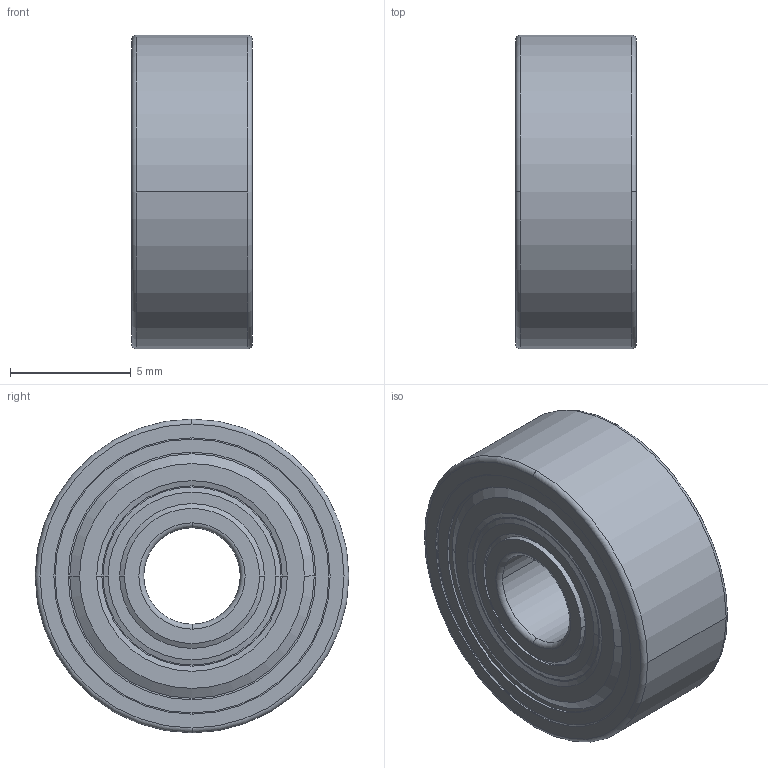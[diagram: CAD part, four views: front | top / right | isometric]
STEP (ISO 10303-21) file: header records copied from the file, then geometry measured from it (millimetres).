
FILE_DESCRIPTION(('FreeCAD Model'),'2;1');
FILE_NAME('Open CASCADE Shape Model','2021-04-30T14:11:58',(''),(''), 'Open CASCADE STEP processor 7.5','FreeCAD','Unknown');
FILE_SCHEMA(('AUTOMOTIVE_DESIGN { 1 0 10303 214 1 1 1 1 }'));
Length unit declared in the file: millimetre
Products named in the file (6): snr_624zz_0_006; snr_624zz_0_1; snr_624zz_0_002; snr_624zz_0_003; snr_624zz_0_004; snr_624zz_0_005
Assembly tree (5 placements, depth 2):
  snr_624zz_0_006
    snr_624zz_0_1
    snr_624zz_0_002
    snr_624zz_0_003
    snr_624zz_0_004
    snr_624zz_0_005
Bounding box: 5 x 13 x 13 mm (x, y, z)
Volume: 510.1 mm3; surface area: 1408.3 mm2
Topology: 5 solids, 5 shells, 118 faces, 264 edges, 172 vertices
Faces by surface type: torus 36, cone 32, plane 26, cylinder 24
Entity records: 7170 total; most frequent: CARTESIAN_POINT 1436, DIRECTION 1190, ORIENTED_EDGE 528, PCURVE 528, DEFINITIONAL_REPRESENTATION 528, LINE 468, VECTOR 468, AXIS2_PLACEMENT_3D 332
